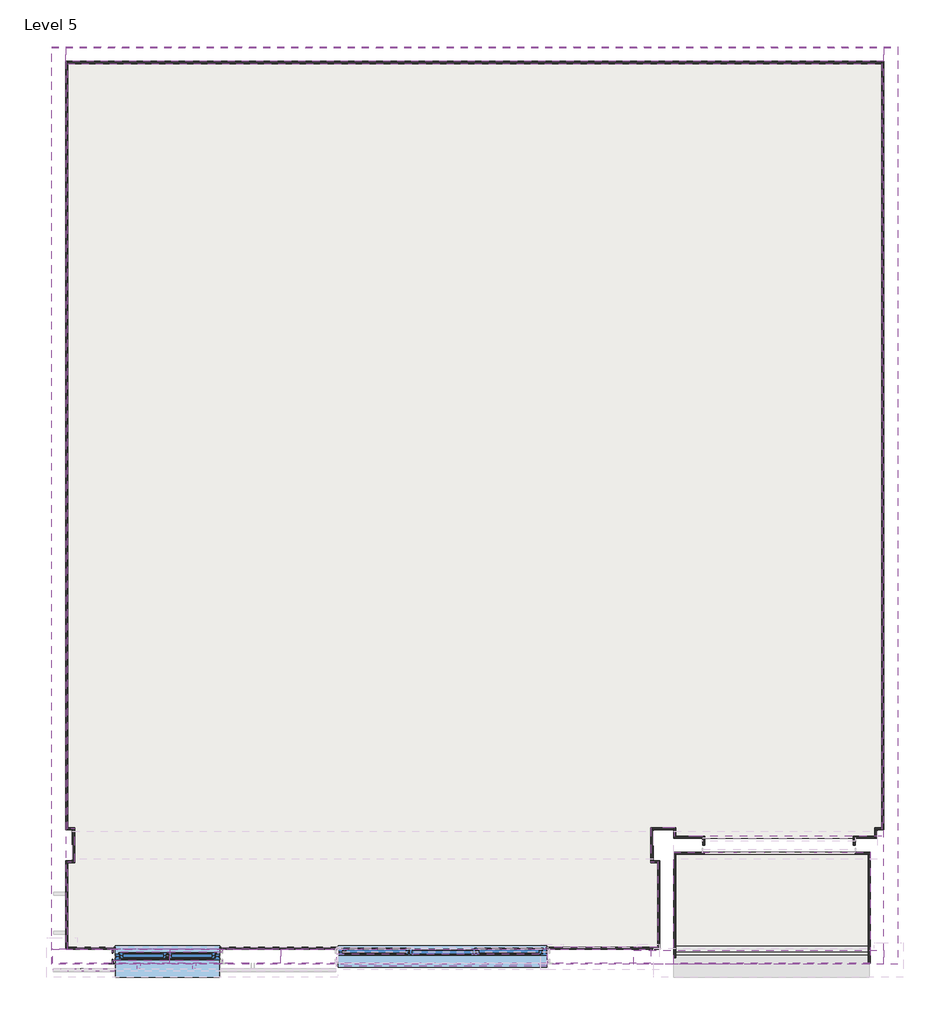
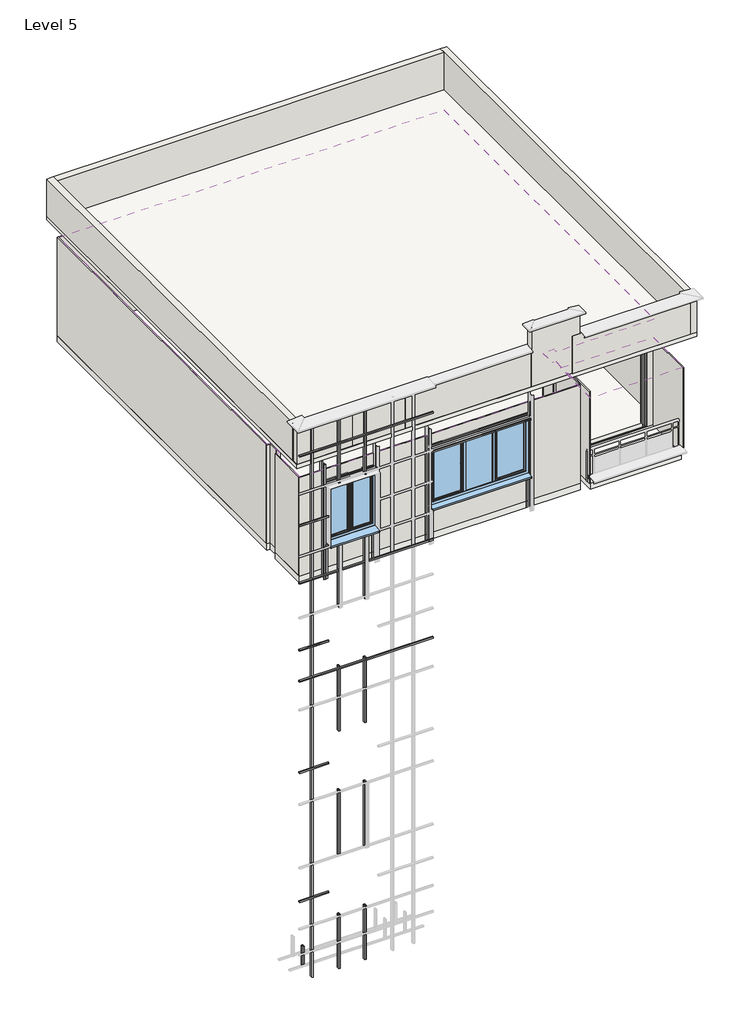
# One storey, part 1 of 2: 30 walls, 23 beams, 4 slabs, 2 coverings, 2 windows.
"""IFC4 building model written with IfcOpenShell, lengths in millimetres."""

from ifc_helpers import new_model, si_unit, point, frame, frame_2d, origin, place, context, project, spatial, polyline, circle_curve, trimmed, segment, composite_curve, outline, extrude, faceted_brep, transform, mapped, element, save
from components import bz1_40_profile_bz1_40_profile_67b9773f, bz1_40_profile_bz1_40_profile_ab947e13, bz1_80_profile_bz1_80_profile_d67bf5f6, bz1_80_profile_bz1_80_profile_e5f705ac, bz1_80_profile_bz1_80_profile_fb012803, bz1_80_profile_bz1_80_profile_591577aa, bz1_80_profile_bz1_80_profile_a418101f, bz1_80_profile_bz1_80_profile_5f0942c5, bz1_80_profile_bz1_80_profile_443fb40e, bz1_wall_post_200_end_863f2b4e, bz1_wall_post_200_end_6934bf96, window_0894faee, window_6c88f6a3, bz1_windows_opening_hinge_s9000_double_vent_window_windows_b4b88814, bz1_windows_opening_hinge_s9000_double_vent_window_windows_c75da518

model = new_model("IFC4")

# Units and contexts
model_context = context("Model", 3, world=origin())
ifc_project = project(units=[si_unit("LENGTHUNIT", "METRE", prefix="MILLI")], contexts=[model_context])

# Site, building, storey
site = spatial("IfcSite", under=ifc_project)
building = spatial("IfcBuilding", under=site)
storey = spatial("IfcBuildingStorey", under=building, Name="Level 5", Elevation=16000.0)

# Beams
placement = place(None, origin())
bz1_40_profile_bz1_40_profile_shape = bz1_40_profile_bz1_40_profile_67b9773f(model_context)
element("IfcBeam", 1, ObjectType="BZ1-40_Profile : BZ1-40_Profile", at=placement, inside=storey, context=model_context, shape_type="MappedRepresentation", body=[
    mapped(bz1_40_profile_bz1_40_profile_shape, transform((-2152.89946, -5799.4647185, 20116.6898939), x_axis=(1.0, 0.0, 0.0), y_axis=(0.0, 0.0, -1.0), z_axis=(0.0, 1.0, 0.0))),
])
element("IfcBeam", 2, ObjectType="BZ1-40_Profile : BZ1-40_Profile", at=placement, inside=storey, context=model_context, shape_type="MappedRepresentation", body=[
    mapped(bz1_40_profile_bz1_40_profile_shape, transform((-2152.89946, -5799.4647185, 16016.6898939), x_axis=(1.0, 0.0, 0.0), y_axis=(0.0, 0.0, -1.0), z_axis=(0.0, 1.0, 0.0))),
])
element("IfcBeam", 3, ObjectType="BZ1-40_Profile : BZ1-40_Profile", at=placement, inside=storey, context=model_context, shape_type="MappedRepresentation", body=[
    mapped(bz1_40_profile_bz1_40_profile_shape, transform((-2152.89946, -5799.4647185, 12856.6898939), x_axis=(1.0, 0.0, 0.0), y_axis=(0.0, 0.0, -1.0), z_axis=(0.0, 1.0, 0.0))),
])
bz1_40_profile_bz1_40_profile_2_shape = bz1_40_profile_bz1_40_profile_ab947e13(model_context)
element("IfcBeam", 4, ObjectType="BZ1-40_Profile : BZ1-40_Profile", at=placement, inside=storey, context=model_context, shape_type="MappedRepresentation", body=[
    mapped(bz1_40_profile_bz1_40_profile_2_shape, transform((-3745.5666589, -5799.4647185, 13856.6898939), x_axis=(1.0, 0.0, 0.0), y_axis=(0.0, 0.0, -1.0), z_axis=(0.0, 1.0, 0.0))),
])
element("IfcBeam", 5, ObjectType="BZ1-40_Profile : BZ1-40_Profile", at=placement, inside=storey, context=model_context, shape_type="MappedRepresentation", body=[
    mapped(bz1_40_profile_bz1_40_profile_2_shape, transform((-3745.5666589, -5799.4647185, 5756.6898939), x_axis=(1.0, 0.0, 0.0), y_axis=(0.0, 0.0, -1.0), z_axis=(0.0, 1.0, 0.0))),
])
element("IfcBeam", 6, ObjectType="BZ1-40_Profile : BZ1-40_Profile", at=placement, inside=storey, context=model_context, shape_type="MappedRepresentation", body=[
    mapped(bz1_40_profile_bz1_40_profile_2_shape, transform((-3745.5666589, -5799.4647185, 17876.6898939), x_axis=(1.0, 0.0, 0.0), y_axis=(0.0, 0.0, -1.0), z_axis=(0.0, 1.0, 0.0))),
])
element("IfcBeam", 7, ObjectType="BZ1-40_Profile : BZ1-40_Profile", at=placement, inside=storey, context=model_context, shape_type="MappedRepresentation", body=[
    mapped(bz1_40_profile_bz1_40_profile_2_shape, transform((-3745.5666589, -5799.4647185, 9916.6898939), x_axis=(1.0, 0.0, 0.0), y_axis=(0.0, 0.0, -1.0), z_axis=(0.0, 1.0, 0.0))),
])
bz1_80_profile_bz1_80_profile_shape = bz1_80_profile_bz1_80_profile_d67bf5f6(model_context)
element("IfcBeam", 8, ObjectType="BZ1-80_Profile : BZ1-80_Profile", at=placement, inside=storey, context=model_context, shape_type="MappedRepresentation", body=[
    mapped(bz1_80_profile_bz1_80_profile_shape, transform((-3773.0666589, -5738.9647185, 12079.0), x_axis=(0.0, 0.0, 1.0), y_axis=(-1.0, 0.0, 0.0), z_axis=(0.0, -1.0, 0.0))),
])
bz1_80_profile_bz1_80_profile_2_shape = bz1_80_profile_bz1_80_profile_e5f705ac(model_context)
element("IfcBeam", 9, ObjectType="BZ1-80_Profile : BZ1-80_Profile", at=placement, inside=storey, context=model_context, shape_type="MappedRepresentation", body=[
    mapped(bz1_80_profile_bz1_80_profile_2_shape, transform((-2953.0666589, -5738.9647185, 4029.0), x_axis=(0.0, 0.0, 1.0), y_axis=(-1.0, 0.0, 0.0), z_axis=(0.0, -1.0, 0.0))),
])
element("IfcBeam", 10, ObjectType="BZ1-80_Profile : BZ1-80_Profile", at=placement, inside=storey, context=model_context, shape_type="MappedRepresentation", body=[
    mapped(bz1_80_profile_bz1_80_profile_2_shape, transform((-2153.0666589, -5738.9647185, 4029.0), x_axis=(0.0, 0.0, 1.0), y_axis=(-1.0, 0.0, 0.0), z_axis=(0.0, -1.0, 0.0))),
])
bz1_80_profile_bz1_80_profile_3_shape = bz1_80_profile_bz1_80_profile_fb012803(model_context)
element("IfcBeam", 11, ObjectType="BZ1-80_Profile : BZ1-80_Profile", at=placement, inside=storey, context=model_context, shape_type="MappedRepresentation", body=[
    mapped(bz1_80_profile_bz1_80_profile_3_shape, transform((-2953.0666589, -5738.9647185, 7853.25), x_axis=(0.0, 0.0, 1.0), y_axis=(-1.0, 0.0, 0.0), z_axis=(0.0, -1.0, 0.0))),
])
element("IfcBeam", 12, ObjectType="BZ1-80_Profile : BZ1-80_Profile", at=placement, inside=storey, context=model_context, shape_type="MappedRepresentation", body=[
    mapped(bz1_80_profile_bz1_80_profile_3_shape, transform((-2153.0666589, -5738.9647185, 7853.25), x_axis=(0.0, 0.0, 1.0), y_axis=(-1.0, 0.0, 0.0), z_axis=(0.0, -1.0, 0.0))),
])
bz1_80_profile_bz1_80_profile_4_shape = bz1_80_profile_bz1_80_profile_591577aa(model_context)
element("IfcBeam", 13, ObjectType="BZ1-80_Profile : BZ1-80_Profile", at=placement, inside=storey, context=model_context, shape_type="MappedRepresentation", body=[
    mapped(bz1_80_profile_bz1_80_profile_4_shape, transform((-2953.0666589, -5738.9647185, 11852.5), x_axis=(0.0, 0.0, 1.0), y_axis=(-1.0, 0.0, 0.0), z_axis=(0.0, -1.0, 0.0))),
])
element("IfcBeam", 14, ObjectType="BZ1-80_Profile : BZ1-80_Profile", at=placement, inside=storey, context=model_context, shape_type="MappedRepresentation", body=[
    mapped(bz1_80_profile_bz1_80_profile_4_shape, transform((-2153.0666589, -5738.9647185, 11852.5), x_axis=(0.0, 0.0, 1.0), y_axis=(-1.0, 0.0, 0.0), z_axis=(0.0, -1.0, 0.0))),
])
bz1_80_profile_bz1_80_profile_5_shape = bz1_80_profile_bz1_80_profile_a418101f(model_context)
element("IfcBeam", 15, ObjectType="BZ1-80_Profile : BZ1-80_Profile", at=placement, inside=storey, context=model_context, shape_type="MappedRepresentation", body=[
    mapped(bz1_80_profile_bz1_80_profile_5_shape, transform((-2953.0666589, -5738.9647185, 15854.5), x_axis=(0.0, 0.0, 1.0), y_axis=(-1.0, 0.0, 0.0), z_axis=(0.0, -1.0, 0.0))),
])
element("IfcBeam", 16, ObjectType="BZ1-80_Profile : BZ1-80_Profile", at=placement, inside=storey, context=model_context, shape_type="MappedRepresentation", body=[
    mapped(bz1_80_profile_bz1_80_profile_5_shape, transform((-2153.0666589, -5738.9647185, 15854.5), x_axis=(0.0, 0.0, 1.0), y_axis=(-1.0, 0.0, 0.0), z_axis=(0.0, -1.0, 0.0))),
])
bz1_80_profile_bz1_80_profile_6_shape = bz1_80_profile_bz1_80_profile_5f0942c5(model_context)
element("IfcBeam", 17, ObjectType="BZ1-80_Profile : BZ1-80_Profile", at=placement, inside=storey, context=model_context, shape_type="MappedRepresentation", body=[
    mapped(bz1_80_profile_bz1_80_profile_6_shape, transform((-2953.0666589, -5738.9647185, 19902.5), x_axis=(0.0, 0.0, 1.0), y_axis=(-1.0, 0.0, 0.0), z_axis=(0.0, -1.0, 0.0))),
])
element("IfcBeam", 18, ObjectType="BZ1-80_Profile : BZ1-80_Profile", at=placement, inside=storey, context=model_context, shape_type="MappedRepresentation", body=[
    mapped(bz1_80_profile_bz1_80_profile_6_shape, transform((-2153.0666589, -5738.9647185, 19902.5), x_axis=(0.0, 0.0, 1.0), y_axis=(-1.0, 0.0, 0.0), z_axis=(0.0, -1.0, 0.0))),
])
bz1_80_profile_bz1_80_profile_7_shape = bz1_80_profile_bz1_80_profile_443fb40e(model_context)
element("IfcBeam", 19, ObjectType="BZ1-80_Profile : BZ1-80_Profile", at=placement, inside=storey, context=model_context, shape_type="MappedRepresentation", body=[
    mapped(bz1_80_profile_bz1_80_profile_7_shape, transform((-3733.0666589, -5187.8329808, 3479.0), x_axis=(0.0, 0.0, 1.0), y_axis=(-1.0, 0.0, 0.0), z_axis=(0.0, -1.0, 0.0))),
])
element("IfcBeam", 20, ObjectType="BZ1_L Profile : T01", at=placement, inside=storey, context=model_context, shape_type="SweptSolid", body=[
    extrude(outline(composite_curve([segment(trimmed(circle_curve(frame_2d((-5659.4647185, 18806.5)), 3.5), [point((-5659.4647185, 18810.0))], [point((-5655.9647185, 18806.5))], False, "CARTESIAN"), True, "CONTINUOUS"), segment(polyline([(-5655.9647185, 18806.5), (-5655.9647185, 18805.0), (-5705.9647185, 18805.0), (-5705.9647185, 18855.0), (-5704.4647185, 18855.0)]), True, "CONTINUOUS"), segment(trimmed(circle_curve(frame_2d((-5704.4647185, 18851.5)), 3.5), [point((-5704.4647185, 18855.0))], [point((-5700.9647185, 18851.5))], False, "CARTESIAN"), True, "CONTINUOUS"), segment(polyline([(-5700.9647185, 18851.5), (-5700.9647185, 18817.0)]), True, "CONTINUOUS"), segment(trimmed(circle_curve(frame_2d((-5693.9647185, 18817.0)), 7.0), [point((-5700.9647185, 18817.0))], [point((-5693.9647185, 18810.0))], True, "CARTESIAN"), True, "CONTINUOUS"), segment(polyline([(-5693.9647185, 18810.0), (-5659.4647185, 18810.0)]), True, "CONTINUOUS")], self_intersect=False)), frame((-3330.5666589, 0.0, 0.0), z_axis=(1.0, 0.0, 0.0), x_axis=(0.0, 1.0, 0.0)), (0.0, 0.0, 1.0), 1580.0),
])
element("IfcBeam", 21, ObjectType="BZ1_L Profile : T01", at=placement, inside=storey, context=model_context, shape_type="SweptSolid", body=[
    extrude(outline(composite_curve([segment(polyline([(-5542.4647185, 18810.0), (-5507.9647185, 18810.0)]), True, "CONTINUOUS"), segment(trimmed(circle_curve(frame_2d((-5507.9647185, 18817.0)), 7.0), [point((-5507.9647185, 18810.0))], [point((-5500.9647185, 18817.0))], True, "CARTESIAN"), True, "CONTINUOUS"), segment(polyline([(-5500.9647185, 18817.0), (-5500.9647185, 18851.5)]), True, "CONTINUOUS"), segment(trimmed(circle_curve(frame_2d((-5497.4647185, 18851.5)), 3.5), [point((-5500.9647185, 18851.5))], [point((-5497.4647185, 18855.0))], False, "CARTESIAN"), True, "CONTINUOUS"), segment(polyline([(-5497.4647185, 18855.0), (-5495.9647185, 18855.0), (-5495.9647185, 18805.0), (-5545.9647185, 18805.0), (-5545.9647185, 18806.5)]), True, "CONTINUOUS"), segment(trimmed(circle_curve(frame_2d((-5542.4647185, 18806.5)), 3.5), [point((-5545.9647185, 18806.5))], [point((-5542.4647185, 18810.0))], False, "CARTESIAN"), True, "CONTINUOUS")], self_intersect=False)), frame((-3330.5666589, 0.0, 0.0), z_axis=(1.0, 0.0, 0.0), x_axis=(0.0, 1.0, 0.0)), (0.0, 0.0, 1.0), 1580.0),
])
bz1_wall_post_200_end_shape = bz1_wall_post_200_end_863f2b4e(model_context)
element("IfcBeam", 22, ObjectType="BZ1_Wall post : 200 END", at=placement, inside=storey, context=model_context, shape_type="MappedRepresentation", body=[
    mapped(bz1_wall_post_200_end_shape, transform((-3330.5666589, -5600.9647185, 15800.0), x_axis=(-1.0, 0.0, 0.0), y_axis=(0.0, -1.0, 0.0), z_axis=(0.0, 0.0, 1.0))),
])
bz1_wall_post_200_end_2_shape = bz1_wall_post_200_end_6934bf96(model_context)
element("IfcBeam", 23, ObjectType="BZ1_Wall post : 200 END", at=placement, inside=storey, context=model_context, shape_type="MappedRepresentation", body=[
    mapped(bz1_wall_post_200_end_2_shape, transform((-3330.5666589, -5600.9647185, 15800.0), x_axis=(1.0, 0.0, 0.0), y_axis=(0.0, 1.0, 0.0), z_axis=(0.0, 0.0, 1.0))),
])

# Coverings
element("IfcCovering", 24, ObjectType="BZ1_FNCH_KANAF_2CM", at=placement, inside=storey, context=model_context, shape_type="SweptSolid", body=[
    extrude(outline(polyline([(4759.4333411, -5700.9799478), (4759.4333411, -4100.9647185), (7589.4333411, -4100.9647185), (7589.4333411, -5700.9799478), (4759.4333411, -5700.9799478)])), frame((0.0, 0.0, 18800.0), z_axis=(0.0, 0.0, 1.0), x_axis=(1.0, 0.0, 0.0)), (0.0, 0.0, 1.0), 20.0),
])
element("IfcCovering", 25, ObjectType="BZ1_FNCH_KANAF_2CM", at=placement, inside=storey, context=model_context, shape_type="SweptSolid", body=[
    extrude(outline(polyline([(-1790.5666589, -5500.9647185), (-3290.5666589, -5500.9647185), (-3980.5666589, -5500.9647185), (-3980.5666589, -4240.9647185), (-3880.5666589, -4240.9647185), (-3880.5666589, -3760.9647185), (-3980.5666589, -3760.9647185), (-3980.5666589, 7269.0352815), (7759.4333411, 7269.0352815), (7759.4333411, -3870.9647185), (5174.4333411, -3870.9647185), (4774.4333411, -3870.9647185), (4774.4333411, -3745.9647185), (4429.4333411, -3745.9647185), (4429.4333411, -4240.9647185), (4529.4333411, -4240.9647185), (4529.4333411, -5470.9647185), (2922.4333411, -5470.9647185), (2922.4333411, -5500.9647185), (-75.5666589, -5500.9647185), (-1790.5666589, -5500.9647185)])), frame((0.0, 0.0, 19180.0), z_axis=(0.0, 0.0, 1.0), x_axis=(1.0, 0.0, 0.0)), (0.0, 0.0, 1.0), 20.0),
])

# Slabs
element("IfcSlab", 26, ObjectType="BZ1_Slab_Concrete_metaldeck-130", at=placement, inside=storey, context=model_context, shape_type="SweptSolid", body=[
    extrude(outline(polyline([(7989.4333411, -5715.9647185), (-4210.5666589, -5715.9647185), (-4210.5666589, 7514.0352815), (7989.4333411, 7514.0352815), (7989.4333411, -5715.9647185)])), frame((0.0, 0.0, 19670.0), z_axis=(0.0, 0.0, 1.0), x_axis=(1.0, 0.0, 0.0)), (0.0, 0.0, 1.0), 130.0),
])
element("IfcSlab", 27, ObjectType="BZ1_FNSH_Ceramic Tile blue_20mm", at=placement, inside=storey, context=model_context, shape_type="SweptSolid", body=[
    extrude(outline(polyline([(4789.4333411, -5620.3554823), (4789.4333411, -4130.9647185), (7559.4333411, -4130.9647185), (7559.4333411, -5620.3554823), (4789.4333411, -5620.3554823)])), frame((0.0, 0.0, 15800.0), z_axis=(0.0, 0.0, 1.0), x_axis=(1.0, 0.0, 0.0)), (0.0, 0.0, 1.0), 200.0),
])
element("IfcSlab", 28, ObjectType="BZ1_FNSH_White stucoo_3cm", at=placement, inside=storey, context=model_context, shape_type="Brep", body=[
    faceted_brep([(-100.2322612, -5567.6133875, 18770.0), (2924.4333411, -5567.6133875, 18770.0), (2924.4333411, -5743.4647185, 18770.0), (-100.2322612, -5743.4647185, 18770.0), (2924.4333411, -5567.6133875, 18810.0), (-100.2322612, -5567.6133875, 18810.0), (-100.2322612, -5659.4647185, 18810.0), (-100.2322612, -5693.9647185, 18810.0), (-100.2322612, -5700.9799478, 18810.0), (2924.4333411, -5700.9799478, 18810.0), (2924.4333411, -5693.9647185, 18810.0), (2924.4333411, -5659.4647185, 18810.0), (2924.4333411, -5700.9799478, 18770.3886675), (2924.4333411, -5743.4647185, 18770.3886675), (-100.2322612, -5743.4647185, 18770.3886675), (-100.2322612, -5700.9799478, 18770.3886675)], [[[0, 1, 2, 3]], [[4, 5, 6, 7, 8, 9, 10, 11]], [[1, 0, 5, 4]], [[2, 1, 4, 11, 10, 9, 12, 13]], [[3, 2, 13, 14]], [[0, 3, 14, 15, 8, 7, 6, 5]], [[15, 12, 9, 8]], [[12, 15, 14, 13]]]),
])
element("IfcSlab", 29, ObjectType="BZ1_FNSH_Ceramic Tile white_20mm", at=placement, inside=storey, context=model_context, shape_type="SweptSolid", body=[
    extrude(outline(polyline([(7689.4333411, -3900.9647185), (4759.4333411, -3900.9647185), (4759.4333411, -3775.9647185), (4459.4333411, -3775.9647185), (4459.4333411, -4225.9647185), (4559.4333411, -4225.9647185), (4559.4333411, -5500.9647185), (-4010.5666589, -5500.9647185), (-4010.5666589, -4225.9647185), (-3910.5666589, -4225.9647185), (-3910.5666589, -3775.9647185), (-4010.5666589, -3775.9647185), (-4010.5666589, 7299.0352815), (7789.4333411, 7299.0352815), (7789.4333411, -3775.9647185), (7689.4333411, -3775.9647185), (7689.4333411, -3900.9647185)])), frame((0.0, 0.0, 15800.0), z_axis=(0.0, 0.0, 1.0), x_axis=(1.0, 0.0, 0.0)), (0.0, 0.0, 1.0), 200.0),
])

# Walls
element("IfcWall", 30, ObjectType="BZ1_fnsh_wthie stucoo_3cm", at=placement, inside=storey, context=model_context, shape_type="Brep", body=[
    faceted_brep([(7589.4333411, -4100.9647185, 16000.0), (4759.4333411, -4100.9647185, 16000.0), (4759.4333411, -4100.9647185, 18820.0), (7589.4333411, -4100.9647185, 18820.0), (5195.0708411, -4100.9647185, 18400.0), (5195.0708411, -4100.9647185, 16020.6375), (7374.4333411, -4100.9647185, 16020.6375), (7374.4333411, -4100.9647185, 18400.0), (7589.4333411, -4130.9647185, 16000.0), (7589.4333411, -4130.9647185, 18800.0), (7589.4333411, -4130.9647185, 18820.0), (4759.4333411, -4130.9647185, 18820.0), (4759.4333411, -4130.9647185, 16000.0), (4789.4333411, -4130.9647185, 16000.0), (7559.4333411, -4130.9647185, 16000.0), (5195.0708411, -4130.9647185, 18400.0), (7374.4333411, -4130.9647185, 18400.0), (7374.4333411, -4130.9647185, 16020.6375), (5195.0708411, -4130.9647185, 16020.6375)], [[[0, 1, 2, 3], [4, 5, 6, 7]], [[8, 9, 10, 11, 12, 13, 14], [15, 16, 17, 18]], [[1, 0, 8, 14, 13, 12]], [[2, 1, 12, 11]], [[3, 2, 11, 10]], [[5, 4, 15, 18]], [[6, 5, 18, 17]], [[7, 6, 17, 16]], [[4, 7, 16, 15]], [[0, 3, 10, 9, 8]]]),
])
element("IfcWall", 31, ObjectType="BZ1_fnsh_wthie stucoo_3cm", at=placement, inside=storey, context=model_context, shape_type="SweptSolid", body=[
    extrude(outline(polyline([(7589.4333411, -4130.9647185), (7589.4333411, -5700.9647185), (7559.4333411, -5700.9647185), (7559.4333411, -4130.9647185), (7589.4333411, -4130.9647185)])), frame((0.0, 0.0, 16000.0), z_axis=(0.0, 0.0, 1.0), x_axis=(1.0, 0.0, 0.0)), (0.0, 0.0, 1.0), 2800.0),
])
element("IfcWall", 32, ObjectType="BZ1_fnsh_wthie stucoo_3cm", at=placement, inside=storey, context=model_context, shape_type="Brep", body=[
    faceted_brep([(4789.4333411, -5620.3554823, 16000.0), (4789.4333411, -4130.9647185, 16000.0), (4789.4333411, -4130.9647185, 18957.4126908), (4789.4333411, -5620.3554823, 18957.4126908), (4759.4333411, -5620.3554823, 16000.0), (4759.4333411, -5620.3554823, 18957.4126908), (4759.4333411, -4130.9647185, 18957.4126908), (4759.4333411, -4130.9647185, 18820.0), (4759.4333411, -4130.9647185, 16000.0)], [[[0, 1, 2, 3]], [[4, 5, 6, 7, 8]], [[1, 0, 4, 8]], [[3, 2, 6, 5]], [[2, 1, 8, 7, 6]], [[0, 3, 5, 4]]]),
])
element("IfcWall", 33, ObjectType="BZ1_fnsh_gypsun3cm", at=placement, inside=storey, context=model_context, shape_type="Brep", body=[
    faceted_brep([(-3980.5666589, -5470.9647185, 16000.0), (-3980.5666589, -4255.9647185, 16000.0), (-3980.5666589, -4225.9647185, 16000.0), (-3980.5666589, -4225.9647185, 19175.0), (-3980.5666589, -5470.9647185, 19175.0), (-4010.5666589, -5470.9647185, 16000.0), (-4010.5666589, -5470.9647185, 19175.0), (-4010.5666589, -4225.9647185, 19175.0), (-4010.5666589, -4225.9647185, 16000.0)], [[[0, 1, 2, 3, 4]], [[5, 6, 7, 8]], [[2, 1, 0, 5, 8]], [[4, 3, 7, 6]], [[3, 2, 8, 7]], [[0, 4, 6, 5]]]),
])
element("IfcWall", 34, ObjectType="BZ1_fnsh_gypsun3cm", at=placement, inside=storey, context=model_context, shape_type="Brep", body=[
    faceted_brep([(-3980.5666589, -4255.9647185, 16000.0), (-3880.5666589, -4255.9647185, 16000.0), (-3880.5666589, -4255.9647185, 19300.0), (-3980.5666589, -4255.9647185, 19300.0), (-3980.5666589, -4225.9647185, 16000.0), (-3980.5666589, -4225.9647185, 19175.0), (-3980.5666589, -4225.9647185, 19300.0), (-3880.5666589, -4225.9647185, 19300.0), (-3880.5666589, -4225.9647185, 19180.0), (-3880.5666589, -4225.9647185, 16000.0), (-3910.5666589, -4225.9647185, 16000.0)], [[[0, 1, 2, 3]], [[4, 5, 6, 7, 8, 9, 10]], [[1, 0, 4, 10, 9]], [[3, 2, 7, 6]], [[0, 3, 6, 5, 4]], [[2, 1, 9, 8, 7]]]),
])
element("IfcWall", 35, ObjectType="BZ1_fnsh_gypsun3cm", at=placement, inside=storey, context=model_context, shape_type="Brep", body=[
    faceted_brep([(-3880.5666589, -4225.9647185, 16000.0), (-3880.5666589, -3745.9647185, 16000.0), (-3880.5666589, -3745.9647185, 19180.0), (-3880.5666589, -4225.9647185, 19180.0), (-3910.5666589, -4225.9647185, 16000.0), (-3910.5666589, -4225.9647185, 19180.0), (-3910.5666589, -3775.9647185, 19180.0), (-3910.5666589, -3745.9647185, 19180.0), (-3910.5666589, -3745.9647185, 16000.0), (-3910.5666589, -3775.9647185, 16000.0)], [[[0, 1, 2, 3]], [[4, 5, 6, 7, 8, 9]], [[1, 0, 4, 9, 8]], [[3, 2, 7, 6, 5]], [[0, 3, 5, 4]], [[2, 1, 8, 7]]]),
])
element("IfcWall", 36, ObjectType="BZ1_fnsh_gypsun3cm", at=placement, inside=storey, context=model_context, shape_type="Brep", body=[
    faceted_brep([(-3910.5666589, -3745.9647185, 16000.0), (-3980.5666589, -3745.9647185, 16000.0), (-4010.5666589, -3745.9647185, 16000.0), (-4010.5666589, -3745.9647185, 19180.0), (-3980.5666589, -3745.9647185, 19180.0), (-3910.5666589, -3745.9647185, 19180.0), (-3910.5666589, -3775.9647185, 16000.0), (-3910.5666589, -3775.9647185, 19180.0), (-4010.5666589, -3775.9647185, 19180.0), (-4010.5666589, -3775.9647185, 16000.0)], [[[0, 1, 2, 3, 4, 5]], [[6, 7, 8, 9]], [[2, 1, 0, 6, 9]], [[5, 4, 3, 8, 7]], [[0, 5, 7, 6]], [[3, 2, 9, 8]]]),
])
element("IfcWall", 37, ObjectType="BZ1_fnsh_gypsun3cm", at=placement, inside=storey, context=model_context, shape_type="SweptSolid", body=[
    extrude(outline(polyline([(-3980.5666589, 7299.0352815), (-3980.5666589, -3745.9647185), (-4010.5666589, -3745.9647185), (-4010.5666589, 7299.0352815), (-3980.5666589, 7299.0352815)])), frame((0.0, 0.0, 16000.0), z_axis=(0.0, 0.0, 1.0), x_axis=(1.0, 0.0, 0.0)), (0.0, 0.0, 1.0), 3180.0),
])
element("IfcWall", 38, ObjectType="BZ1_fnsh_gypsun3cm", at=placement, inside=storey, context=model_context, shape_type="SweptSolid", body=[
    extrude(outline(polyline([(7759.4333411, 7269.0352815), (-4010.5666589, 7269.0352815), (-4010.5666589, 7299.0352815), (7759.4333411, 7299.0352815), (7759.4333411, 7269.0352815)])), frame((0.0, 0.0, 16000.0), z_axis=(0.0, 0.0, 1.0), x_axis=(1.0, 0.0, 0.0)), (0.0, 0.0, 1.0), 3180.0),
])
element("IfcWall", 39, ObjectType="BZ1_fnsh_gypsun3cm", at=placement, inside=storey, context=model_context, shape_type="Brep", body=[
    faceted_brep([(7759.4333411, 7299.0352815, 19200.0), (7759.4333411, 7299.0352815, 19180.0), (7759.4333411, 7299.0352815, 16000.0), (7759.4333411, 7269.0352815, 16000.0), (7759.4333411, -3745.9647185, 16000.0), (7759.4333411, -3775.9647185, 16000.0), (7759.4333411, -3775.9647185, 19184.6661592), (7759.4333411, -3775.9647185, 19200.0), (7789.4333411, 7299.0352815, 16000.0), (7789.4333411, 7299.0352815, 19200.0), (7789.4333411, -3775.9647185, 19200.0), (7789.4333411, -3775.9647185, 16000.0)], [[[0, 1, 2, 3, 4, 5, 6, 7]], [[8, 9, 10, 11]], [[5, 4, 3, 2, 8, 11]], [[0, 7, 10, 9]], [[7, 6, 5, 11, 10]], [[0, 9, 8, 2, 1]]]),
])
element("IfcWall", 40, ObjectType="BZ1_fnsh_gypsun3cm", at=placement, inside=storey, context=model_context, shape_type="Brep", body=[
    faceted_brep([(7759.4333411, -3745.9647185, 16000.0), (7659.4333411, -3745.9647185, 16000.0), (7659.4333411, -3745.9647185, 19184.6661592), (7759.4333411, -3745.9647185, 19184.6661592), (7759.4333411, -3775.9647185, 16000.0), (7759.4333411, -3775.9647185, 19184.6661592), (7659.4333411, -3775.9647185, 19184.6661592), (7659.4333411, -3775.9647185, 19180.0), (7659.4333411, -3775.9647185, 16000.0), (7689.4333411, -3775.9647185, 16000.0)], [[[0, 1, 2, 3]], [[4, 5, 6, 7, 8, 9]], [[1, 0, 4, 9, 8]], [[3, 2, 6, 5]], [[0, 3, 5, 4]], [[2, 1, 8, 7, 6]]]),
])
element("IfcWall", 41, ObjectType="BZ1_fnsh_gypsun3cm", at=placement, inside=storey, context=model_context, shape_type="Brep", body=[
    faceted_brep([(7659.4333411, -3775.9647185, 16000.0), (7659.4333411, -3870.9647185, 16000.0), (7659.4333411, -3900.9647185, 16000.0), (7659.4333411, -3900.9647185, 19200.0), (7659.4333411, -3900.9647185, 19300.0), (7659.4333411, -3870.9647185, 19300.0), (7659.4333411, -3870.9647185, 19200.0), (7659.4333411, -3870.9647185, 19180.0), (7659.4333411, -3775.9647185, 19180.0), (7689.4333411, -3775.9647185, 16000.0), (7689.4333411, -3775.9647185, 19180.0), (7689.4333411, -3870.9647185, 19180.0), (7689.4333411, -3870.9647185, 19300.0), (7689.4333411, -3900.9647185, 19300.0), (7689.4333411, -3900.9647185, 16000.0)], [[[0, 1, 2, 3, 4, 5, 6, 7, 8]], [[9, 10, 11, 12, 13, 14]], [[2, 1, 0, 9, 14]], [[0, 8, 10, 9]], [[5, 4, 13, 12]], [[8, 7, 11, 10]], [[5, 12, 11, 7, 6]], [[4, 3, 2, 14, 13]]]),
])
element("IfcWall", 42, ObjectType="BZ1_fnsh_gypsun3cm", at=placement, inside=storey, context=model_context, shape_type="Brep", body=[
    faceted_brep([(7659.4333411, -3870.9647185, 16000.0), (7344.4333411, -3870.9647185, 16000.0), (7344.4333411, -3870.9647185, 18400.0), (5204.4333411, -3870.9647185, 18400.0), (5174.4333411, -3870.9647185, 18400.0), (5174.4333411, -3870.9647185, 19200.0), (5204.4333411, -3870.9647185, 19200.0), (7659.4333411, -3870.9647185, 19200.0), (7659.4333411, -3870.9647185, 19180.0), (7659.4333411, -3900.9647185, 16000.0), (7659.4333411, -3900.9647185, 19200.0), (5204.4333411, -3900.9647185, 19200.0), (5174.4333411, -3900.9647185, 19200.0), (5174.4333411, -3900.9647185, 18400.0), (5204.4333411, -3900.9647185, 18400.0), (7344.4333411, -3900.9647185, 18400.0), (7344.4333411, -3900.9647185, 16000.0), (7374.4333411, -3900.9647185, 16000.0)], [[[0, 1, 2, 3, 4, 5, 6, 7, 8]], [[9, 10, 11, 12, 13, 14, 15, 16, 17]], [[0, 8, 7, 10, 9]], [[1, 0, 9, 17, 16]], [[4, 3, 2, 15, 14, 13]], [[5, 4, 13, 12]], [[7, 6, 5, 12, 11, 10]], [[2, 1, 16, 15]]]),
])
element("IfcWall", 43, ObjectType="BZ1_fnsh_gypsun3cm", at=placement, inside=storey, context=model_context, shape_type="SweptSolid", body=[
    extrude(outline(polyline([(7344.4333411, -4000.9647185), (7344.4333411, -3900.9647185), (7374.4333411, -3900.9647185), (7374.4333411, -4000.9647185), (7344.4333411, -4000.9647185)])), frame((0.0, 0.0, 16000.0), z_axis=(0.0, 0.0, 1.0), x_axis=(1.0, 0.0, 0.0)), (0.0, 0.0, 1.0), 2400.0),
])
element("IfcWall", 44, ObjectType="BZ1_fnsh_gypsun3cm", at=placement, inside=storey, context=model_context, shape_type="Brep", body=[
    faceted_brep([(5204.4333411, -3870.9647185, 16000.0), (4789.4333411, -3870.9647185, 16000.0), (4759.4333411, -3870.9647185, 16000.0), (4759.4333411, -3870.9647185, 19200.0), (4759.4333411, -3870.9647185, 19300.0), (5204.4333411, -3870.9647185, 19300.0), (5204.4333411, -3870.9647185, 19200.0), (5174.4333411, -3870.9647185, 19200.0), (5174.4333411, -3870.9647185, 18400.0), (5204.4333411, -3870.9647185, 18400.0), (5204.4333411, -3900.9647185, 16000.0), (5204.4333411, -3900.9647185, 18400.0), (5174.4333411, -3900.9647185, 18400.0), (5174.4333411, -3900.9647185, 19200.0), (5204.4333411, -3900.9647185, 19200.0), (5204.4333411, -3900.9647185, 19300.0), (5174.4333411, -3900.9647185, 19300.0), (4759.4333411, -3900.9647185, 19300.0), (4759.4333411, -3900.9647185, 16000.0), (5174.4333411, -3900.9647185, 16000.0)], [[[0, 1, 2, 3, 4, 5, 6, 7, 8, 9]], [[10, 11, 12, 13, 14, 15, 16, 17, 18, 19]], [[2, 1, 0, 10, 19, 18]], [[5, 4, 17, 16, 15]], [[4, 3, 2, 18, 17]], [[8, 12, 11, 9]], [[8, 7, 13, 12]], [[6, 14, 13, 7]], [[0, 9, 11, 10]], [[6, 5, 15, 14]]]),
])
element("IfcWall", 45, ObjectType="BZ1_fnsh_gypsun3cm", at=placement, inside=storey, context=model_context, shape_type="Brep", body=[
    faceted_brep([(4789.4333411, -3870.9647185, 16000.0), (4789.4333411, -3745.9647185, 16000.0), (4789.4333411, -3745.9647185, 19200.0), (4789.4333411, -3870.9647185, 19200.0), (4759.4333411, -3870.9647185, 16000.0), (4759.4333411, -3870.9647185, 19200.0), (4759.4333411, -3775.9647185, 19200.0), (4759.4333411, -3745.9647185, 19200.0), (4759.4333411, -3745.9647185, 16000.0), (4759.4333411, -3775.9647185, 16000.0)], [[[0, 1, 2, 3]], [[4, 5, 6, 7, 8, 9]], [[1, 0, 4, 9, 8]], [[3, 2, 7, 6, 5]], [[0, 3, 5, 4]], [[2, 1, 8, 7]]]),
])
element("IfcWall", 46, ObjectType="BZ1_fnsh_gypsun3cm", at=placement, inside=storey, context=model_context, shape_type="Brep", body=[
    faceted_brep([(4759.4333411, -3745.9647185, 16000.0), (4429.4333411, -3745.9647185, 16000.0), (4429.4333411, -3745.9647185, 19200.0), (4759.4333411, -3745.9647185, 19200.0), (4759.4333411, -3775.9647185, 16000.0), (4759.4333411, -3775.9647185, 19200.0), (4429.4333411, -3775.9647185, 19200.0), (4429.4333411, -3775.9647185, 16000.0), (4459.4333411, -3775.9647185, 16000.0)], [[[0, 1, 2, 3]], [[4, 5, 6, 7, 8]], [[1, 0, 4, 8, 7]], [[3, 2, 6, 5]], [[0, 3, 5, 4]], [[2, 1, 7, 6]]]),
])
element("IfcWall", 47, ObjectType="BZ1_fnsh_gypsun3cm", at=placement, inside=storey, context=model_context, shape_type="Brep", body=[
    faceted_brep([(4429.4333411, -3775.9647185, 16000.0), (4429.4333411, -4255.9647185, 16000.0), (4429.4333411, -4255.9647185, 19180.0), (4429.4333411, -4240.9647185, 19180.0), (4429.4333411, -4240.9647185, 19200.4600485), (4429.4333411, -3775.9647185, 19200.4600485), (4429.4333411, -3775.9647185, 19200.0), (4459.4333411, -3775.9647185, 16000.0), (4459.4333411, -3775.9647185, 19200.4600485), (4459.4333411, -4240.9647185, 19200.4600485), (4459.4333411, -4240.9647185, 19180.0), (4459.4333411, -4255.9647185, 19180.0), (4459.4333411, -4255.9647185, 16000.0), (4459.4333411, -4225.9647185, 16000.0)], [[[0, 1, 2, 3, 4, 5, 6]], [[7, 8, 9, 10, 11, 12, 13]], [[1, 0, 7, 13, 12]], [[0, 6, 5, 8, 7]], [[2, 1, 12, 11]], [[5, 4, 9, 8]], [[3, 2, 11, 10]], [[9, 4, 3, 10]]]),
])
element("IfcWall", 48, ObjectType="BZ1_fnsh_gypsun3cm", at=placement, inside=storey, context=model_context, shape_type="Brep", body=[
    faceted_brep([(4459.4333411, -4255.9647185, 16000.0), (4529.4333411, -4255.9647185, 16000.0), (4559.4333411, -4255.9647185, 16000.0), (4559.4333411, -4255.9647185, 19200.0), (4559.4333411, -4255.9647185, 19300.0), (4459.4333411, -4255.9647185, 19300.0), (4459.4333411, -4255.9647185, 19180.0), (4459.4333411, -4225.9647185, 16000.0), (4459.4333411, -4225.9647185, 19300.0), (4559.4333411, -4225.9647185, 19300.0), (4559.4333411, -4225.9647185, 18800.0), (4559.4333411, -4225.9647185, 16000.0)], [[[0, 1, 2, 3, 4, 5, 6]], [[7, 8, 9, 10, 11]], [[2, 1, 0, 7, 11]], [[5, 4, 9, 8]], [[0, 6, 5, 8, 7]], [[2, 11, 10, 9, 4, 3]]]),
])
element("IfcWall", 49, ObjectType="BZ1_fnsh_gypsun3cm", at=placement, inside=storey, context=model_context, shape_type="Brep", body=[
    faceted_brep([(4529.4333411, -4255.9647185, 16000.0), (4529.4333411, -5470.9647185, 16000.0), (4529.4333411, -5470.9647185, 19200.0), (4529.4333411, -4255.9647185, 19200.0), (4559.4333411, -4255.9647185, 16000.0), (4559.4333411, -4255.9647185, 19200.0), (4559.4333411, -5470.9647185, 19200.0), (4559.4333411, -5470.9647185, 19180.0), (4559.4333411, -5470.9647185, 16000.0)], [[[0, 1, 2, 3]], [[4, 5, 6, 7, 8]], [[1, 0, 4, 8]], [[3, 2, 6, 5]], [[0, 3, 5, 4]], [[2, 1, 8, 7, 6]]]),
])
element("IfcWall", 50, ObjectType="BZ1_fnsh_gypsun3cm", at=placement, inside=storey, context=model_context, shape_type="Brep", body=[
    faceted_brep([(5174.4333411, -3900.9647185, 19300.0), (5174.4333411, -3900.9647185, 19200.0), (5174.4333411, -3900.9647185, 18400.0), (5174.4333411, -3900.9647185, 16000.0), (5174.4333411, -4000.9647185, 16000.0), (5174.4333411, -4000.9647185, 19300.0), (5204.4333411, -3900.9647185, 16000.0), (5204.4333411, -3900.9647185, 18400.0), (5204.4333411, -3900.9647185, 19200.0), (5204.4333411, -3900.9647185, 19300.0), (5204.4333411, -4000.9647185, 19300.0), (5204.4333411, -4000.9647185, 16000.0)], [[[0, 1, 2, 3, 4, 5]], [[6, 7, 8, 9, 10, 11]], [[4, 3, 6, 11]], [[5, 4, 11, 10]], [[0, 5, 10, 9]], [[0, 9, 8, 7, 6, 3, 2, 1]]]),
])
element("IfcWall", 51, ObjectType="BZ1_fnsh_gypsun3cm", at=placement, inside=storey, context=model_context, shape_type="Brep", body=[
    faceted_brep([(4559.4333411, -5470.9647185, 19180.0), (4559.4333411, -5470.9647185, 16000.0), (4529.4333411, -5470.9647185, 16000.0), (-3980.5666589, -5470.9647185, 16000.0), (-4010.5666589, -5470.9647185, 16000.0), (-4010.5666589, -5470.9647185, 19175.0), (-4010.5666589, -5470.9647185, 19180.0), (-1790.5666589, -5470.9647185, 16940.0), (-1790.5666589, -5470.9647185, 18770.0), (-3290.5666589, -5470.9647185, 18770.0), (-3290.5666589, -5470.9647185, 16940.0), (2922.4333411, -5470.9647185, 16951.5), (2922.4333411, -5470.9647185, 18770.0), (-75.5666589, -5470.9647185, 18770.0), (-75.5666589, -5470.9647185, 16951.5), (4559.4333411, -5500.9647185, 16000.0), (4559.4333411, -5500.9647185, 19180.0), (-4010.5666589, -5500.9647185, 19180.0), (-4010.5666589, -5500.9647185, 16000.0), (-1790.5666589, -5500.9647185, 16940.0), (-3290.5666589, -5500.9647185, 16940.0), (-3290.5666589, -5500.9647185, 18770.0), (-1790.5666589, -5500.9647185, 18770.0), (2922.4333411, -5500.9647185, 16951.5), (-75.5666589, -5500.9647185, 16951.5), (-75.5666589, -5500.9647185, 18770.0), (2922.4333411, -5500.9647185, 18770.0)], [[[0, 1, 2, 3, 4, 5, 6], [7, 8, 9, 10], [11, 12, 13, 14]], [[15, 16, 17, 18], [19, 20, 21, 22], [23, 24, 25, 26]], [[4, 3, 2, 1, 15, 18]], [[0, 6, 17, 16]], [[8, 7, 19, 22]], [[9, 8, 22, 21]], [[10, 9, 21, 20]], [[7, 10, 20, 19]], [[12, 11, 23, 26]], [[13, 12, 26, 25]], [[14, 13, 25, 24]], [[11, 14, 24, 23]], [[4, 18, 17, 6, 5]], [[0, 16, 15, 1]]]),
])
element("IfcWall", 52, ObjectType="BZ1-Core-Block-20cm", at=placement, inside=storey, context=model_context, shape_type="Brep", body=[
    faceted_brep([(-4193.0666589, -5700.9647185, 19800.0), (-2510.5666589, -5700.9647185, 19800.0), (-2510.5666589, -5700.9647185, 21000.0), (-4193.0666589, -5700.9647185, 21000.0), (-2510.5666589, -5500.9647185, 19800.0), (-4010.5666589, -5500.9647185, 19800.0), (-4193.0666589, -5500.9647185, 19800.0), (-4193.0666589, -5500.9647185, 21000.0), (-4010.5666589, -5500.9647185, 21000.0), (-2510.5666589, -5500.9647185, 21000.0)], [[[0, 1, 2, 3]], [[4, 5, 6, 7, 8, 9]], [[1, 0, 6, 5, 4]], [[2, 1, 4, 9]], [[3, 2, 9, 8, 7]], [[0, 3, 7, 6]]]),
])
element("IfcWall", 53, ObjectType="BZ1-Core-Block-20cm", at=placement, inside=storey, context=model_context, shape_type="Brep", body=[
    faceted_brep([(-4010.5666589, -5500.9647185, 19800.0), (-4010.5666589, 7299.0352815, 19800.0), (-4010.5666589, 7499.0352815, 19800.0), (-4010.5666589, 7499.0352815, 21000.0), (-4010.5666589, 7299.0352815, 21000.0), (-4010.5666589, -5500.9647185, 21000.0), (-4210.5666589, -5500.9647185, 19800.0), (-4210.5666589, -5500.9647185, 21000.0), (-4210.5666589, 7499.0352815, 21000.0), (-4210.5666589, 7499.0352815, 19800.0), (-4193.0666589, -5500.9647185, 19800.0), (-4193.0666589, -5500.9647185, 21000.0)], [[[0, 1, 2, 3, 4, 5]], [[6, 7, 8, 9]], [[2, 1, 0, 10, 6, 9]], [[5, 4, 3, 8, 7, 11]], [[3, 2, 9, 8]], [[0, 5, 11, 7, 6, 10]]]),
])
element("IfcWall", 54, ObjectType="BZ1-Core-Block-20cm", at=placement, inside=storey, context=model_context, shape_type="Brep", body=[
    faceted_brep([(7989.4333411, -5715.9647185, 19800.0), (7989.4333411, 7499.0352815, 19800.0), (7989.4333411, 7499.0352815, 21000.0), (7989.4333411, -5715.9647185, 21000.0), (7789.4333411, -5715.9647185, 19800.0), (7789.4333411, -5715.9647185, 21000.0), (7789.4333411, -5515.9647185, 21000.0), (7789.4333411, 7299.0352815, 21000.0), (7789.4333411, 7499.0352815, 21000.0), (7789.4333411, 7499.0352815, 19800.0), (7789.4333411, 7299.0352815, 19800.0), (7789.4333411, -5515.9647185, 19800.0)], [[[0, 1, 2, 3]], [[4, 5, 6, 7, 8, 9, 10, 11]], [[1, 0, 4, 11, 10, 9]], [[3, 2, 8, 7, 6, 5]], [[1, 9, 8, 2]], [[0, 3, 5, 4]]]),
])
element("IfcWall", 55, ObjectType="BZ1-Core-Block-20cm", at=placement, inside=storey, context=model_context, shape_type="SweptSolid", body=[
    extrude(outline(polyline([(-4010.5666589, 7499.0352815), (7789.4333411, 7499.0352815), (7789.4333411, 7299.0352815), (-4010.5666589, 7299.0352815), (-4010.5666589, 7499.0352815)])), frame((0.0, 0.0, 19800.0), z_axis=(0.0, 0.0, 1.0), x_axis=(1.0, 0.0, 0.0)), (0.0, 0.0, 1.0), 1200.0),
])
element("IfcWall", 56, ObjectType="BZ1-Core-Block-20cm", at=placement, inside=storey, context=model_context, shape_type="Brep", body=[
    faceted_brep([(2939.4333411, -5700.9647185, 19800.0), (2939.4333411, -5700.9647185, 21000.0), (-905.5666589, -5700.9647185, 21000.0), (-905.5666589, -5700.9647185, 19800.0), (2939.4333411, -5500.9647185, 19800.0), (-905.5666589, -5500.9647185, 19800.0), (-905.5666589, -5500.9647185, 21000.0), (2924.4333411, -5500.9647185, 21000.0), (2939.4333411, -5500.9647185, 21000.0)], [[[0, 1, 2, 3]], [[4, 5, 6, 7, 8]], [[1, 0, 4, 8]], [[2, 1, 8, 7, 6]], [[3, 2, 6, 5]], [[0, 3, 5, 4]]]),
])
element("IfcWall", 57, ObjectType="BZ1-Core-Block-20cm", at=placement, inside=storey, context=model_context, shape_type="SweptSolid", body=[
    extrude(outline(polyline([(-2510.5666589, -5700.9647185), (-2510.5666589, -5500.9647185), (-905.5666589, -5500.9647185), (-905.5666589, -5700.9647185), (-2510.5666589, -5700.9647185)])), frame((0.0, 0.0, 19800.0), z_axis=(0.0, 0.0, 1.0), x_axis=(1.0, 0.0, 0.0)), (0.0, 0.0, 1.0), 1200.0),
])
element("IfcWall", 58, ObjectType="BZ1-Core-Block-20cm", at=placement, inside=storey, context=model_context, shape_type="Brep", body=[
    faceted_brep([(4429.4333411, -5700.9647185, 19800.0), (4429.4333411, -5700.9647185, 21694.873822), (2954.4333411, -5700.9647185, 21694.873822), (2954.4333411, -5700.9647185, 21000.0), (2939.4333411, -5700.9647185, 21000.0), (2939.4333411, -5700.9647185, 19800.0), (4429.4333411, -5500.9647185, 21694.873822), (4429.4333411, -5500.9647185, 19800.0), (2939.4333411, -5500.9647185, 19800.0), (2939.4333411, -5500.9647185, 21000.0), (2954.4333411, -5500.9647185, 21000.0), (2954.4333411, -5500.9647185, 21694.873822), (3131.9340046, -5500.9647185, 21626.328216), (4260.772332, -5500.9647185, 21626.328216), (4260.772332, -5500.9647185, 21640.7020432), (3131.9340046, -5500.9647185, 21640.7020432), (3131.9340046, -5501.4181034, 21626.328216), (4260.772332, -5501.4181034, 21626.328216), (3131.9340046, -5501.4181034, 21640.7020432), (4260.772332, -5501.4181034, 21640.7020432)], [[[0, 1, 2, 3, 4, 5]], [[6, 7, 8, 9, 10, 11], [12, 13, 14, 15]], [[1, 0, 7, 6]], [[2, 1, 6, 11]], [[0, 5, 8, 7]], [[16, 17, 13, 12]], [[18, 16, 12, 15]], [[19, 18, 15, 14]], [[17, 16, 18, 19]], [[17, 19, 14, 13]], [[8, 5, 4, 9]], [[10, 9, 4, 3]], [[2, 11, 10, 3]]]),
])
element("IfcWall", 59, ObjectType="BZ1-Core-Block-20cm", at=placement, inside=storey, context=model_context, shape_type="SweptSolid", body=[
    extrude(outline(polyline([(7789.4333411, -5715.9647185), (4184.9516805, -5715.9647185), (4184.9516805, -5515.9647185), (7789.4333411, -5515.9647185), (7789.4333411, -5715.9647185)])), frame((0.0, 0.0, 19800.0), z_axis=(0.0, 0.0, 1.0), x_axis=(1.0, 0.0, 0.0)), (0.0, 0.0, 1.0), 1200.0),
])

# Windows
window_shape = window_0894faee(model_context)
window_2_shape = window_6c88f6a3(model_context)
element("IfcWindow", 60, ObjectType="BZ1_Windows_Opening-Hinge_S9000_Three-Piece-Window-Turn-Tilt : Windows_Opening-Hinge_S9000_Three-Piece-Window-Turn-Tilt", at=placement, inside=storey, context=model_context, shape_type="MappedRepresentation", body=[
    mapped(window_shape, transform((1424.4333411, -5600.9647185, 16100.0), x_axis=(1.0, 0.0, 0.0), y_axis=(0.0, 1.0, 0.0), z_axis=(0.0, 0.0, 1.0))),
    mapped(window_2_shape, transform((1424.4333411, -5600.9647185, 16100.0), x_axis=(1.0, 0.0, 0.0), y_axis=(0.0, 1.0, 0.0), z_axis=(0.0, 0.0, 1.0))),
])
bz1_windows_opening_hinge_s9000_double_vent_window_windows_shape = bz1_windows_opening_hinge_s9000_double_vent_window_windows_b4b88814(model_context)
bz1_windows_opening_hinge_s9000_double_vent_window_windows_2_shape = bz1_windows_opening_hinge_s9000_double_vent_window_windows_c75da518(model_context)
element("IfcWindow", 61, ObjectType="BZ1_Windows_Opening-Hinge_S9000-Double-Vent-Window : Windows_Opening-Hinge_S9000-Double-Vent-Window", at=placement, inside=storey, context=model_context, shape_type="MappedRepresentation", body=[
    mapped(bz1_windows_opening_hinge_s9000_double_vent_window_windows_shape, transform((-2540.5666589, -5600.9647185, 16100.0), x_axis=(-1.0, 0.0, 0.0), y_axis=(0.0, -1.0, 0.0), z_axis=(0.0, 0.0, 1.0))),
    mapped(bz1_windows_opening_hinge_s9000_double_vent_window_windows_2_shape, transform((-2540.5666589, -5600.9647185, 16100.0), x_axis=(-1.0, 0.0, 0.0), y_axis=(0.0, -1.0, 0.0), z_axis=(0.0, 0.0, 1.0))),
])

save(model, "model.ifc")
